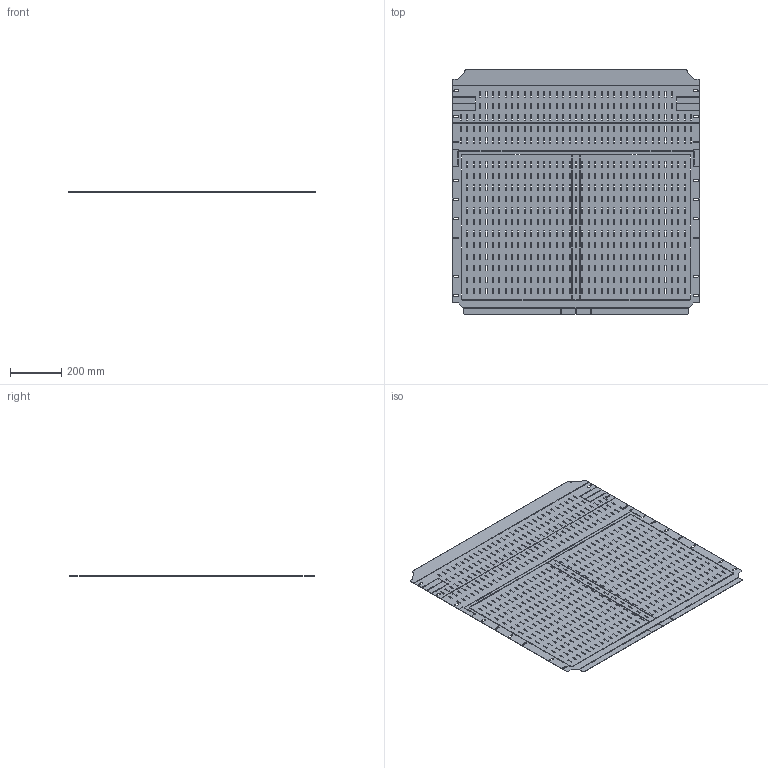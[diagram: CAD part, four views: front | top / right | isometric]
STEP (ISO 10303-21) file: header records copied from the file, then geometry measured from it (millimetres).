
FILE_DESCRIPTION(('STEP AP203'), '1');
FILE_NAME('Îãðàæäåíèå âåðõíåå ÔÁ Ø1000õÃ1000 ìì OptiBox M 419194 ÊÝÀÇ', '', ('UNSPECIFIED'), ('UNSPECIFIED'), 'C3D Converter', 'C3D Toolkit', '');
FILE_SCHEMA(('CONFIG_CONTROL_DESIGN'));
Length unit declared in the file: millimetre
Bounding box: 967 x 955 x 1.5 mm (x, y, z)
Volume: 1275679.9 mm3; surface area: 1776687.9 mm2
Topology: 1 solids, 1 shells, 2998 faces, 8988 edges, 5992 vertices
Faces by surface type: plane 2926, cylinder 72
Entity records: 101964 total; most frequent: CARTESIAN_POINT 17979, ORIENTED_EDGE 17976, DIRECTION 15130, EDGE_CURVE 8988, LINE 8844, VECTOR 8844, VERTEX_POINT 5992, FACE_BOUND 4442
